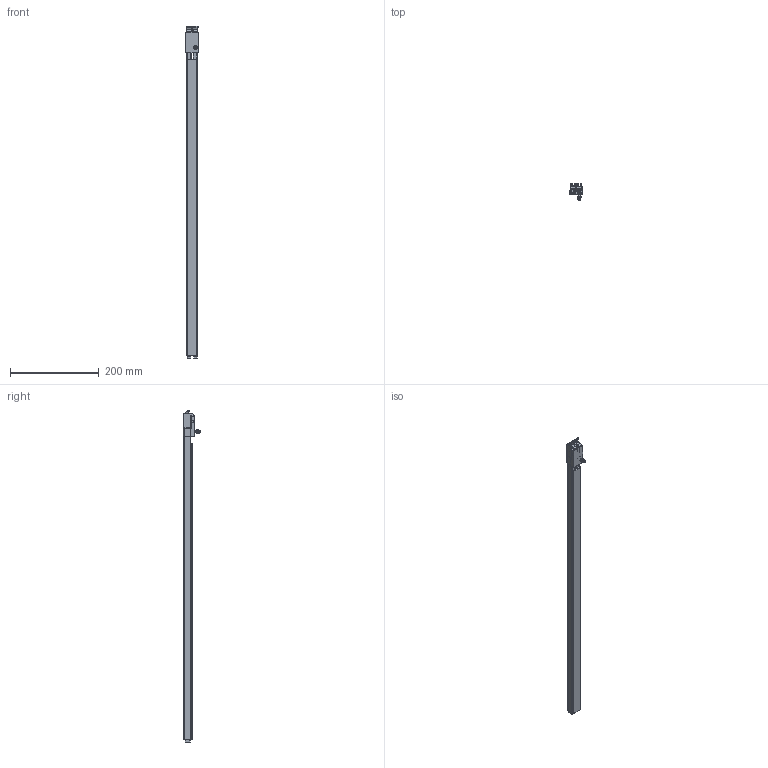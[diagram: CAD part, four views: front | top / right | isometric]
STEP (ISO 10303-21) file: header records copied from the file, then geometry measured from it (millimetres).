
FILE_DESCRIPTION (( 'STEP AP214' ), '1' );
FILE_NAME ('BG_V2.STEP', '2014-12-01T14:05:49', ( 'Conductix-Wampfler GmbH' ), ( 'IT' ), 'SwSTEP 2.0', 'SolidWorks 2012', '' );
FILE_SCHEMA (( 'AUTOMOTIVE_DESIGN' ));
Length unit declared in the file: millimetre
Products named in the file (1): BG_V2
Bounding box: 29 x 38.5 x 750 mm (x, y, z)
Volume: 157437.5 mm3; surface area: 298326.4 mm2
Topology: 2 solids, 3 shells, 1096 faces, 3111 edges, 1966 vertices
Faces by surface type: plane 563, cylinder 391, cone 58, bspline 44, torus 32, sphere 8
Entity records: 47536 total; most frequent: CARTESIAN_POINT 9969, ORIENTED_EDGE 6194, DIRECTION 5581, EDGE_CURVE 3097, VERTEX_POINT 1966, LINE 1927, VECTOR 1927, AXIS2_PLACEMENT_3D 1827
